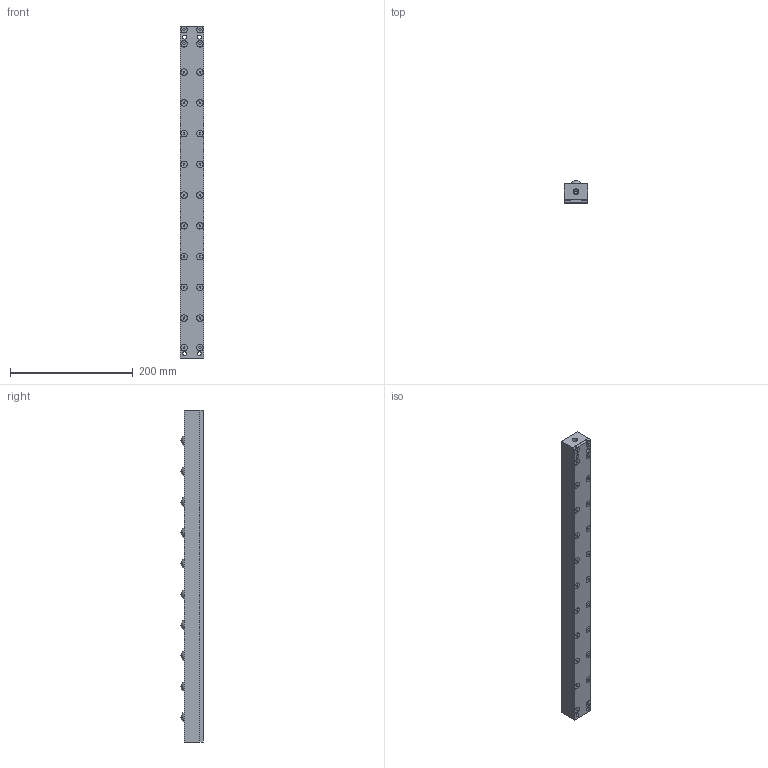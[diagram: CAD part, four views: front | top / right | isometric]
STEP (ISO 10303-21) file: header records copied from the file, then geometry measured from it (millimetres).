
FILE_DESCRIPTION (( 'STEP AP203' ), '1' );
FILE_NAME ('PVL30SL-10-P50.STEP', '2016-01-06T05:41:56', ( '' ), ( '' ), 'SwSTEP 2.0', 'SolidWorks 2013', '' );
FILE_SCHEMA (( 'CONFIG_CONTROL_DESIGN' ));
Length unit declared in the file: millimetre
Products named in the file (1): PVL30SL-10-P50
Bounding box: 38 x 36 x 540 mm (x, y, z)
Volume: 634577 mm3; surface area: 177719.1 mm2
Topology: 9 solids, 9 shells, 489 faces, 1124 edges, 741 vertices
Faces by surface type: plane 259, cylinder 170, cone 40, sphere 20
Entity records: 13997 total; most frequent: DIRECTION 2522, CARTESIAN_POINT 2341, ORIENTED_EDGE 2220, EDGE_CURVE 1110, AXIS2_PLACEMENT_3D 922, VERTEX_POINT 741, VECTOR 678, LINE 678
